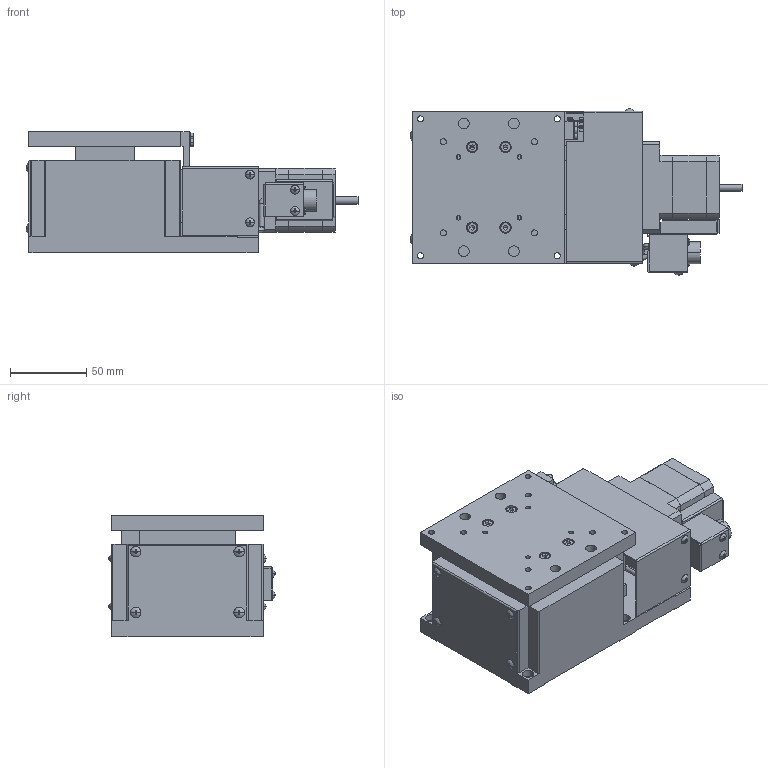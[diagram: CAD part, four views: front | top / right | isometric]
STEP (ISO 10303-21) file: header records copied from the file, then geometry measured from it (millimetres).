
FILE_DESCRIPTION (( 'STEP AP203' ), '1' );
FILE_NAME ('ZA10A-W202-R.STEP', '2019-02-21T00:42:02', ( '' ), ( '' ), 'SwSTEP 2.0', 'SolidWorks 2018', '' );
FILE_SCHEMA (( 'CONFIG_CONTROL_DESIGN' ));
Length unit declared in the file: millimetre
Products named in the file (3): base; table; ZA10A-W202-R
Assembly tree (2 placements, depth 2):
  ZA10A-W202-R
    table
    base
Bounding box: 218.39 x 109.37 x 80 mm (x, y, z)
Volume: 930264.4 mm3; surface area: 163537.6 mm2
Topology: 2 solids, 6 shells, 1938 faces, 4865 edges, 3004 vertices
Faces by surface type: plane 1181, cylinder 461, cone 200, torus 62, sphere 34
Entity records: 58255 total; most frequent: CARTESIAN_POINT 10720, DIRECTION 10296, ORIENTED_EDGE 9586, EDGE_CURVE 4793, AXIS2_PLACEMENT_3D 3692, VERTEX_POINT 2998, LINE 2912, VECTOR 2912
